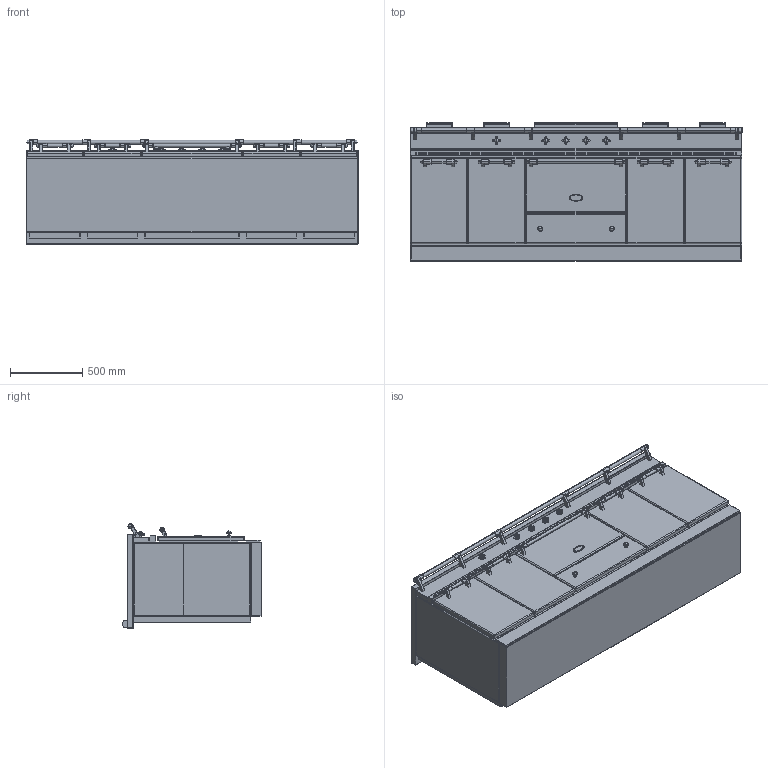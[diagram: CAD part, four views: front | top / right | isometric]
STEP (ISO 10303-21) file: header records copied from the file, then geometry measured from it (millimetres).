
FILE_DESCRIPTION((''),'2;1');
FILE_NAME('VUES_DXF_ASM','2021-12-02T16:57:47',('r.avril'),(''),'CREO PARAMETRIC BY PTC INC, 2017260','CREO PARAMETRIC BY PTC INC, 2017260','');
FILE_SCHEMA(('AP203_CONFIGURATION_CONTROLLED_3D_DESIGN_OF_MECHANICAL_PARTS_AND_ASSEMBLIES_MIM_LF { 1 0 10303 403 2 1 2 }'));
Products named in the file (22): BASE_EXPORT_FONTENAY_LVI2331; 65650003; 65650004; 65650006; 65650007; 6531940; 6531941; 6531943; 65049009; 65650001; 6538399; 1931942; 65080022_AF0; 6531942_ASM; BASE_EXPORT_CITEAUX_LVI2332_ASM; TABLE_2300_INDUCTION_ET_VTR; 65052012; CHEMINEE_2020_LG582_EXPORT_STEP; CHEMINEE_2020_LG182_EXPORT_STEP; TABLE_2300_INDUCTION_ASM; LVI2332_ASM; VUES_DXF_ASM
Assembly tree (39 placements, depth 5):
  VUES_DXF_ASM
    LVI2332_ASM
      BASE_EXPORT_CITEAUX_LVI2332_ASM
        BASE_EXPORT_FONTENAY_LVI2331
        65650003
        65650004
        65650006  x2
        65650007  x2
        6531940  x5
        6531941  x5
        6531943  x2
        65049009
        65650001
        6531942_ASM  x5
          6538399
          1931942
          65080022_AF0
      TABLE_2300_INDUCTION_ASM
        TABLE_2300_INDUCTION_ET_VTR
        65052012
        CHEMINEE_2020_LG582_EXPORT_STEP
        CHEMINEE_2020_LG182_EXPORT_STEP  x4
Bounding box: 2305 x 963 x 724 mm (x, y, z)
Volume: 850756028.1 mm3; surface area: 19473947 mm2
Topology: 53 solids, 71 shells, 6036 faces, 16326 edges, 10447 vertices
Faces by surface type: plane 3014, cylinder 2152, torus 297, sphere 178, extrusion 142, bspline 128, cone 101, revolution 24
Entity records: 133118 total; most frequent: CARTESIAN_POINT 28099, DIRECTION 18746, ORIENTED_EDGE 18744, EDGE_CURVE 9386, VECTOR 6260, LINE 6230, AXIS2_PLACEMENT_3D 6208, VERTEX_POINT 6063
